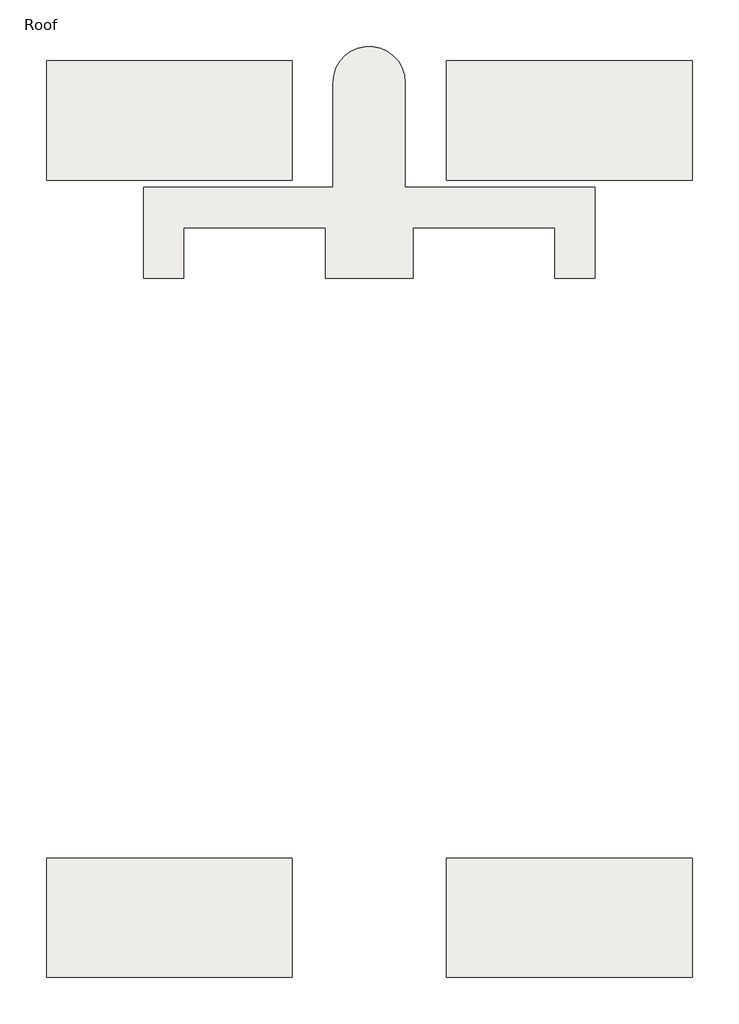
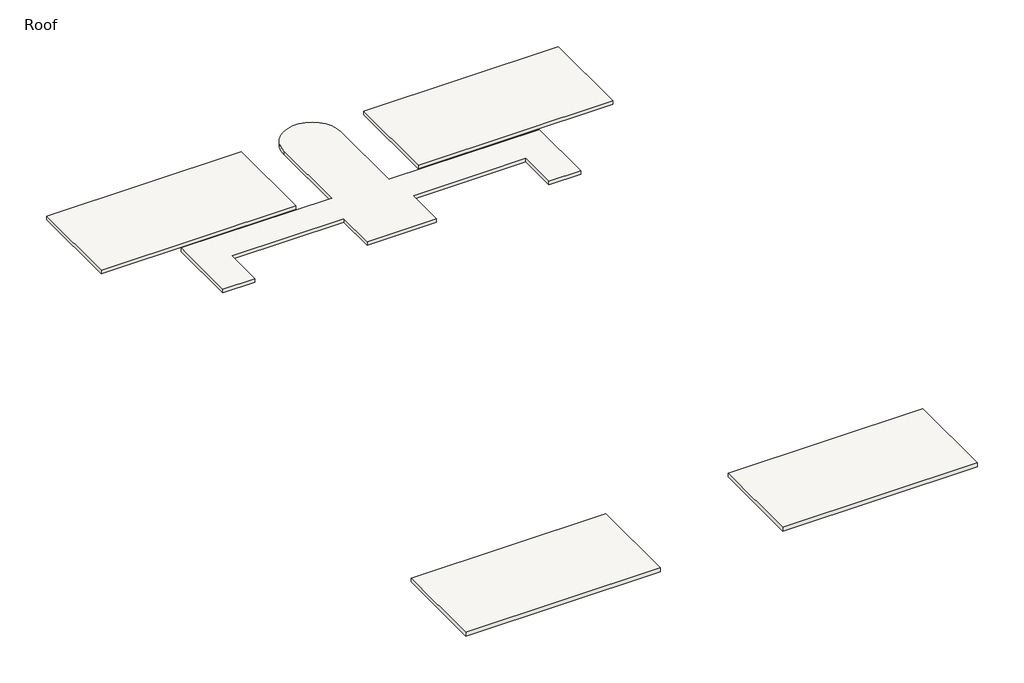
# One storey, incomplete: 5 roofs.
"""IFC4 building model written with IfcOpenShell, lengths in millimetres."""

import ifcopenshell
import ifcopenshell.guid

model = None  # the IFC model being written
_history = None  # IfcOwnerHistory: only IFC2X3 demands one
_inside = {}  # id of a spatial element -> (the spatial element, [elements in it])
_under = {}  # id of a project, library or spatial element -> (it, [spatial elements below it])
_declared = {}  # id of a project -> (the project, [libraries it declares])
_typed = {}  # id of a type object -> (the type object, [elements of that type])
_made_of = {}  # id of a material, layer set ... -> (it, [elements and type objects made of it])


def new_model(schema):
    """Start an empty IFC model of exactly this schema.

    Asked for "IFC4X3", IfcOpenShell would pick the latest addendum, in which some entities
    have other attributes; the version numbers below select the first issue.
    IFC2X3 requires an IfcOwnerHistory on every rooted entity: one is made here for all.
    """
    global model, _history
    if schema == "IFC4X3":
        model = ifcopenshell.file(schema_version=(4, 3, 0, 0))
    else:
        model = ifcopenshell.file(schema=schema)
    _inside.clear()
    _under.clear()
    _declared.clear()
    _typed.clear()
    _made_of.clear()
    _history = None
    if model.schema == "IFC2X3":
        org = make("IfcOrganization", Name="unknown")
        user = make(
            "IfcPersonAndOrganization",
            ThePerson=make("IfcPerson", FamilyName="unknown"),
            TheOrganization=org,
        )
        app = make(
            "IfcApplication",
            ApplicationDeveloper=org,
            Version="unknown",
            ApplicationFullName="unknown",
            ApplicationIdentifier="unknown",
        )
        _history = make(
            "IfcOwnerHistory",
            OwningUser=user,
            OwningApplication=app,
            ChangeAction="ADDED",
            CreationDate=0,
        )
    return model


def make(cls, **values):
    """One entity of the class cls with the attributes given. An attribute that is None is left unset."""
    return model.create_entity(
        cls, **{name: value for name, value in values.items() if value is not None}
    )


def rooted(cls, **values):
    """An entity with a GlobalId (a new one), such as an element, a storey or a relation."""
    return make(cls, GlobalId=ifcopenshell.guid.new(), OwnerHistory=_history, **values)


def si_unit(unit_type, name, prefix=None):
    """IfcSIUnit, for example si_unit("LENGTHUNIT", "METRE", prefix="MILLI")."""
    return make("IfcSIUnit", UnitType=unit_type, Prefix=prefix, Name=name)


def assignment(units):
    """IfcUnitAssignment: the units of a project."""
    return None if units is None else make("IfcUnitAssignment", Units=units)


def point(xyz):
    """IfcCartesianPoint."""
    return None if xyz is None else make("IfcCartesianPoint", Coordinates=xyz)


def direction(xyz):
    """IfcDirection."""
    return None if xyz is None else make("IfcDirection", DirectionRatios=xyz)


def frame(location, z_axis=None, x_axis=None):
    """IfcAxis2Placement3D, a coordinate frame: its origin and axes. An axis left out is left unset."""
    return make(
        "IfcAxis2Placement3D",
        Location=point(location),
        Axis=direction(z_axis),
        RefDirection=direction(x_axis),
    )


def frame_2d(location, x_axis=None):
    """IfcAxis2Placement2D, a coordinate frame in the plane: its origin and x axis."""
    return make(
        "IfcAxis2Placement2D", Location=point(location), RefDirection=direction(x_axis)
    )


def origin():
    """The frame at (0, 0, 0) with its axes left unset."""
    return frame((0.0, 0.0, 0.0))


def place(relative_to, where):
    """IfcLocalPlacement: puts the frame where relative to a parent placement (None: the world)."""
    return make(
        "IfcLocalPlacement", PlacementRelTo=relative_to, RelativePlacement=where
    )


def context(
    kind, dimensions, precision=None, world=None, true_north=None, identifier=None
):
    """IfcGeometricRepresentationContext, for example the 3D "Model" context."""
    return make(
        "IfcGeometricRepresentationContext",
        ContextIdentifier=identifier,
        ContextType=kind,
        CoordinateSpaceDimension=dimensions,
        Precision=precision,
        WorldCoordinateSystem=world,
        TrueNorth=true_north,
    )


def project(units=None, contexts=None):
    """IfcProject with its units and contexts."""
    return rooted(
        "IfcProject",
        Name="project",
        RepresentationContexts=contexts,
        UnitsInContext=assignment(units),
    )


def spatial(cls, under=None, at=None, **own):
    """A site, building, storey or space (cls), placed at a placement, below another one or the project."""
    s = rooted(cls, ObjectPlacement=at, **own)
    if under is not None:
        _under.setdefault(under.id(), (under, []))[1].append(s)
    return s


def polyline(points):
    """IfcPolyline through the points."""
    return make("IfcPolyline", Points=[point(p) for p in points])


def circle_curve(where, radius):
    """IfcCircle in the frame where."""
    return make("IfcCircle", Position=where, Radius=radius)


def trimmed(basis, trim1, trim2, sense, master):
    """IfcTrimmedCurve: the piece of a basis curve between two trims."""
    return make(
        "IfcTrimmedCurve",
        BasisCurve=basis,
        Trim1=trim1,
        Trim2=trim2,
        SenseAgreement=sense,
        MasterRepresentation=master,
    )


def segment(curve, same_sense, transition):
    """IfcCompositeCurveSegment."""
    return make(
        "IfcCompositeCurveSegment",
        Transition=transition,
        SameSense=same_sense,
        ParentCurve=curve,
    )


def composite_curve(segments, self_intersect=None):
    """IfcCompositeCurve: segments joined end to end."""
    return make("IfcCompositeCurve", Segments=segments, SelfIntersect=self_intersect)


def outline(outer, holes=None, kind="AREA"):
    """IfcArbitraryClosedProfileDef: a profile drawn as a closed curve; with holes, ...WithVoids."""
    if holes is None:
        return make("IfcArbitraryClosedProfileDef", ProfileType=kind, OuterCurve=outer)
    return make(
        "IfcArbitraryProfileDefWithVoids",
        ProfileType=kind,
        OuterCurve=outer,
        InnerCurves=holes,
    )


def extrude(swept, where, along, depth):
    """IfcExtrudedAreaSolid: the profile swept, set in the frame where, extruded along a direction by depth."""
    return make(
        "IfcExtrudedAreaSolid",
        SweptArea=swept,
        Position=where,
        ExtrudedDirection=direction(along),
        Depth=depth,
    )


def shape(context_of_items, identifier, shape_type, items):
    """IfcShapeRepresentation: the items that make up one representation, for example the "Body"."""
    return make(
        "IfcShapeRepresentation",
        ContextOfItems=context_of_items,
        RepresentationIdentifier=identifier,
        RepresentationType=shape_type,
        Items=items,
    )


def made_of(thing, what):
    """Note that an element or type object is made of a material, layer set ...; save() writes the relation."""
    if what is not None:
        _made_of.setdefault(what.id(), (what, []))[1].append(thing)
    return thing


def element(
    cls,
    number,
    at=None,
    inside=None,
    cuts=None,
    type_object=None,
    material=None,
    context=None,
    identifier="Body",
    shape_type=None,
    held_by="IfcProductDefinitionShape",
    body=None,
    shapes=None,
    **own,
):
    """One element of the class cls, such as IfcWall. Its Tag is "e" and its number.

    at: its placement. inside: the storey or other place that contains it. cuts: it is an
    opening in that element (IfcRelVoidsElement). A single representation is given by context,
    identifier, shape_type and body (its items); several are given by shapes. held_by: the class
    of the entity that holds the representations. save() writes the other relations.
    """
    e = rooted(cls, Tag="e%d" % number, ObjectPlacement=at, **own)
    if body is not None:
        shapes = [shape(context, identifier, shape_type, body)]
    if shapes is not None:
        e.Representation = make(held_by, Representations=shapes)
    if inside is not None:
        _inside.setdefault(inside.id(), (inside, []))[1].append(e)
    if cuts is not None:
        rooted(
            "IfcRelVoidsElement", RelatingBuildingElement=cuts, RelatedOpeningElement=e
        )
    if type_object is not None:
        _typed.setdefault(type_object.id(), (type_object, []))[1].append(e)
    return made_of(e, material)


def aggregate(whole, parts):
    """IfcRelAggregates: a whole, such as a stair, and the parts it consists of."""
    return rooted("IfcRelAggregates", RelatingObject=whole, RelatedObjects=parts)


def save(model, path):
    """Write the relations noted so far, then the file.

    IfcRelAggregates (storeys below a building ...), IfcRelContainedInSpatialStructure (elements
    in a storey), IfcRelDefinesByType, IfcRelAssociatesMaterial and IfcRelDeclares: one each for
    every whole, place, type object, material and project.
    """
    for whole, parts in _under.values():
        aggregate(whole, parts)
    for where, things in _inside.values():
        rooted(
            "IfcRelContainedInSpatialStructure",
            RelatedElements=things,
            RelatingStructure=where,
        )
    for kind, things in _typed.values():
        rooted("IfcRelDefinesByType", RelatedObjects=things, RelatingType=kind)
    for what, things in _made_of.values():
        rooted("IfcRelAssociatesMaterial", RelatedObjects=things, RelatingMaterial=what)
    for by, libraries in _declared.values():
        rooted("IfcRelDeclares", RelatingContext=by, RelatedDefinitions=libraries)
    model.write(path)


model = new_model("IFC4")

# Units and contexts
model_context = context("Model", 3, world=origin())
ifc_project = project(units=[si_unit("LENGTHUNIT", "METRE", prefix="MILLI")], contexts=[model_context])

# Site, building, storey
site = spatial("IfcSite", under=ifc_project)
building = spatial("IfcBuilding", under=site)
storey = spatial("IfcBuildingStorey", under=building, Name="Roof", Elevation=12192.0)

# Roofs
placement = place(None, origin())
element("IfcRoof", 1, ObjectType="Generic - 9\"", at=placement, inside=storey, context=model_context, shape_type="SweptSolid", body=[
    extrude(outline(polyline([(-11217.2464563, 10270.0191867), (622.3285437, 10270.0191867), (622.3285437, 4526.4441867), (-11217.2464563, 4526.4441867), (-11217.2464563, 10270.0191867)])), frame((0.0, 0.0, 12192.0), z_axis=(0.0, 0.0, 1.0), x_axis=(1.0, 0.0, 0.0)), (0.0, 0.0, 1.0), 228.6),
])
element("IfcRoof", 2, ObjectType="Generic - 9\"", at=placement, inside=storey, context=model_context, shape_type="SweptSolid", body=[
    extrude(outline(composite_curve([segment(polyline([(-25807.9589563, -197.9558133), (-25807.9589563, 4174.0191867), (-16676.6589563, 4174.0191867), (-16676.6589563, 9227.0316867)]), True, "CONTINUOUS"), segment(trimmed(circle_curve(frame_2d((-14941.5214563, 9227.0316867)), 1735.1375), [point((-16676.6589563, 9227.0316867))], [point((-13206.3839563, 9227.0316867))], False, "CARTESIAN"), True, "CONTINUOUS"), segment(polyline([(-13206.3839563, 9227.0316867), (-13206.3839563, 4174.0191867), (-4062.3839563, 4174.0191867), (-4062.3839563, -197.9558133), (-5995.9589563, -197.9558133), (-5995.9589563, 2240.4441867), (-12825.3839563, 2240.4441867), (-12825.3839563, -197.9558133), (-17044.9589563, -197.9558133), (-17044.9589563, 2240.4441867), (-23874.3839563, 2240.4441867), (-23874.3839563, -197.9558133), (-25807.9589563, -197.9558133)]), True, "CONTINUOUS")], self_intersect=False)), frame((0.0, 0.0, 12192.0), z_axis=(0.0, 0.0, 1.0), x_axis=(1.0, 0.0, 0.0)), (0.0, 0.0, 1.0), 228.6),
])
element("IfcRoof", 3, ObjectType="Generic - 9\"", at=placement, inside=storey, context=model_context, shape_type="SweptSolid", body=[
    extrude(outline(polyline([(-30492.6714563, 10270.0191867), (-18653.0964563, 10270.0191867), (-18653.0964563, 4526.4441867), (-30492.6714563, 4526.4441867), (-30492.6714563, 10270.0191867)])), frame((0.0, 0.0, 12192.0), z_axis=(0.0, 0.0, 1.0), x_axis=(1.0, 0.0, 0.0)), (0.0, 0.0, 1.0), 228.6),
])
element("IfcRoof", 4, ObjectType="Generic - 9\"", at=placement, inside=storey, context=model_context, shape_type="SweptSolid", body=[
    extrude(outline(polyline([(622.3285437, -33878.3558133), (-11217.2464563, -33878.3558133), (-11217.2464563, -28134.7808133), (622.3285437, -28134.7808133), (622.3285437, -33878.3558133)])), frame((0.0, 0.0, 12192.0), z_axis=(0.0, 0.0, 1.0), x_axis=(1.0, 0.0, 0.0)), (0.0, 0.0, 1.0), 228.6),
])
element("IfcRoof", 5, ObjectType="Generic - 9\"", at=placement, inside=storey, context=model_context, shape_type="SweptSolid", body=[
    extrude(outline(polyline([(-18653.0964563, -33878.3558133), (-30492.6714563, -33878.3558133), (-30492.6714563, -28134.7808133), (-18653.0964563, -28134.7808133), (-18653.0964563, -33878.3558133)])), frame((0.0, 0.0, 12192.0), z_axis=(0.0, 0.0, 1.0), x_axis=(1.0, 0.0, 0.0)), (0.0, 0.0, 1.0), 228.6),
])

save(model, "model.ifc")
